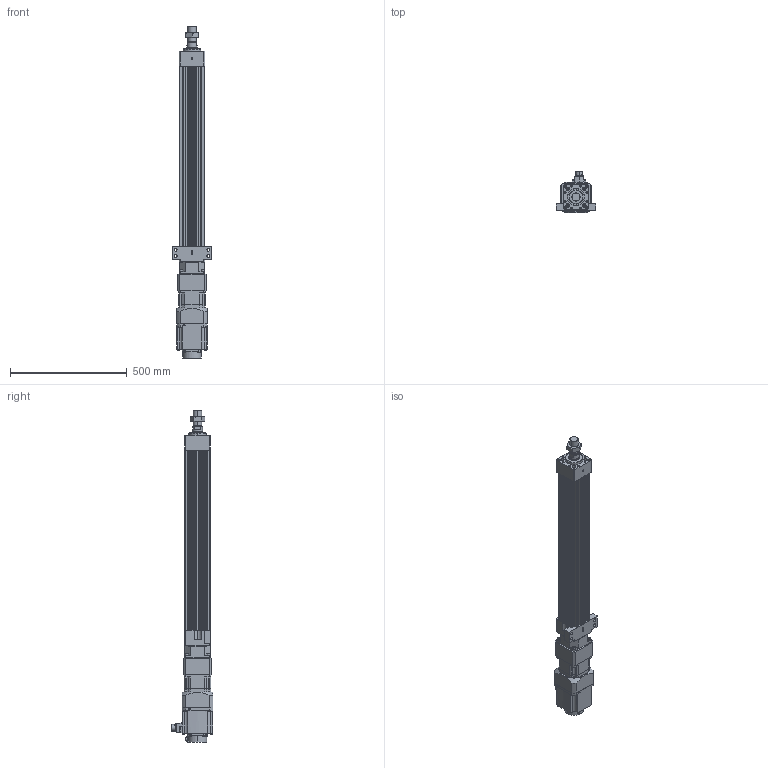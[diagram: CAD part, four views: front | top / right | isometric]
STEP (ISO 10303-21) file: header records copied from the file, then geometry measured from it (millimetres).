
FILE_DESCRIPTION (( 'STEP AP203' ), '1' );
FILE_NAME ('HES110NS(HS)-S600-W015G00-M-FFC.STEP', '2023-01-28T05:41:36', ( 'tms' ), ( '' ), 'SwSTEP 2.0', 'SolidWorks 2013', '' );
FILE_SCHEMA (( 'CONFIG_CONTROL_DESIGN' ));
Length unit declared in the file: millimetre
Products named in the file (8): P0401400706; M36X1.5P; HES110NS(HS)-S600-W015G00-M-FFC; AB1151; AB115-003[HG-SR152]; HES110-S600-G120-FFC; HG-SR152; HES110 ROD M ST600
Assembly tree (7 placements, depth 3):
  HES110NS(HS)-S600-W015G00-M-FFC
    HES110-S600-G120-FFC
    HES110 ROD M ST600
    M36X1.5P
    AB115-003[HG-SR152]
      AB1151
      P0401400706
    HG-SR152
Bounding box: 170 x 177.49 x 1421.5 mm (x, y, z)
Volume: 9091358.2 mm3; surface area: 1296717 mm2
Topology: 4 solids, 15 shells, 1222 faces, 3083 edges, 1988 vertices
Faces by surface type: plane 557, cylinder 549, cone 104, bspline 8, torus 4
Entity records: 38313 total; most frequent: CARTESIAN_POINT 7246, DIRECTION 6648, ORIENTED_EDGE 6070, EDGE_CURVE 3045, AXIS2_PLACEMENT_3D 2450, VERTEX_POINT 1988, LINE 1748, VECTOR 1748
